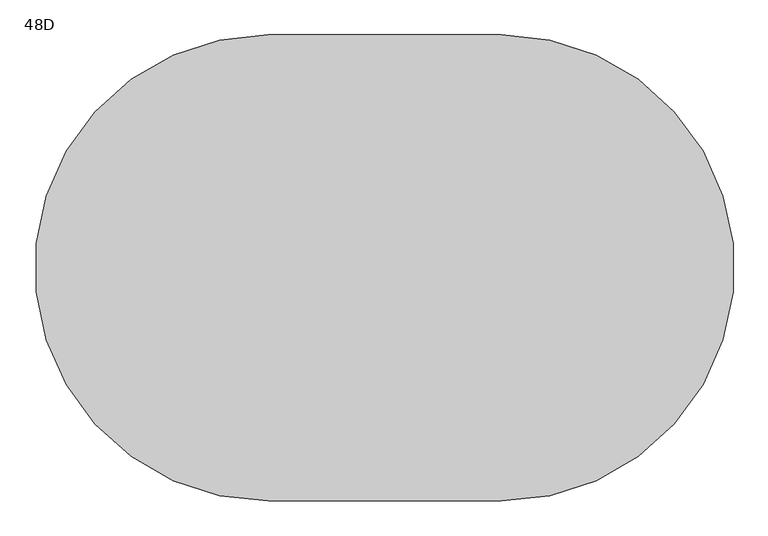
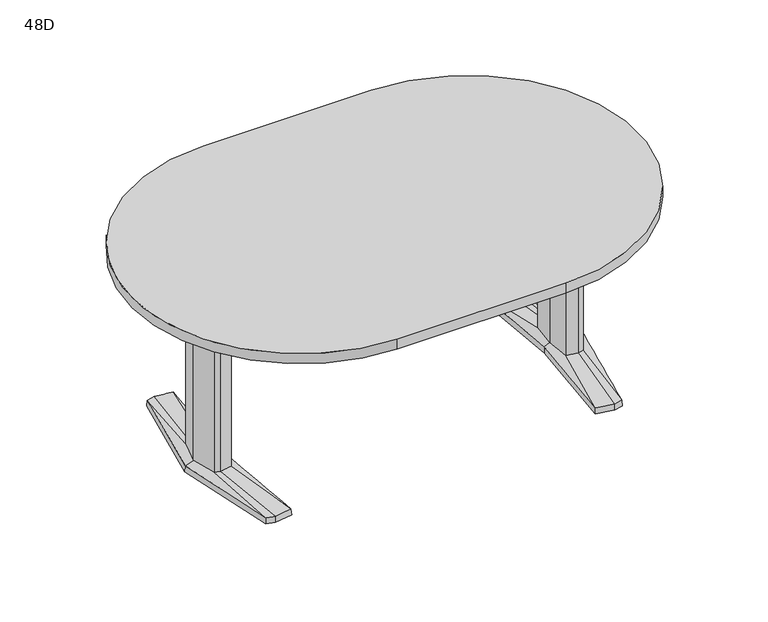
"""IFC4 building model written with IfcOpenShell, lengths in millimetres: furniture geometry, Coalesse_AM_Table_Conference_ETable2_Racetrack_72in_AluminiumBase : 48D."""

from ifc_helpers import new_model, si_unit, point, frame, frame_2d, origin, place, context, project, spatial, polyline, circle_curve, trimmed, segment, composite_curve, outline, extrude, source, transform, mapped, element, save
from ifc_brep_helpers import plane_surface, spline_surface, advanced_brep


def furniture_48d_6699b437(model_context):
    return source(origin(), model_context, "Body", "SolidModel", [
        advanced_brep(
        [(614.8503471, -379.3768856, 25.4), (644.5756636, -371.5332654, 25.4), (668.2327243, -89.293702, 36.5125), (648.9795254, -94.605478, 36.5125), (606.0521001, -87.0529327, 36.5125), (551.7612538, -368.5071562, 25.4), (597.9364207, 0.0, 36.5125), (579.8389754, 0.3970149, 25.4), (606.0521001, 87.0529327, 36.5125), (551.7615002, 368.5172593, 25.4), (648.9795254, 94.605478, 36.5125), (614.8502233, 379.3769183, 25.4), (668.2327243, 89.293702, 36.5125), (644.7535458, 371.4863276, 25.4), (692.1595251, 0.0, 36.5125), (721.4851663, 0.0003516, 25.4), (578.2468742, 0.3968871, 3.175), (550.06875, 369.8367279, 3.175), (614.9213004, 381.0, 3.175), (646.1093245, 372.7704151, 3.175), (723.10625, 0.0, 3.175), (645.9309817, -372.8174744, 3.175), (614.9213004, -381.0, 3.175), (550.06875, -369.8264415, 3.175), (649.5979264, 107.6121478, 3.175), (594.3065451, 97.8843184, 3.175), (585.1810887, 0.0, 3.175), (594.3065451, -97.8843184, 3.175), (649.5979264, -107.6121478, 3.175), (678.6183473, -99.6056872, 3.175), (705.3083085, 0.0, 3.175), (678.6183473, 99.6056872, 3.175), (613.4286812, 346.9152841, 3.175), (557.7811371, 337.3364985, 3.175), (560.1889918, 324.8641942, 3.175), (612.8600644, 333.9306305, 3.175), (648.6725609, 324.4807859, 3.175), (647.5544526, 337.9105158, 3.175), (613.4286812, -346.9152841, 3.175), (647.5544526, -337.9105158, 3.175), (648.6725609, -324.4807859, 3.175), (612.8600644, -333.9306305, 3.175), (560.1889918, -324.8641942, 3.175), (557.7811371, -337.3364985, 3.175), (649.5979264, 107.6121478, 0.0), (678.6183473, 99.6056872, 0.0), (705.3083085, 0.0, 0.0), (678.6183473, -99.6056872, 0.0), (649.5979264, -107.6121478, 0.0), (594.3065451, -97.8843184, 0.0), (585.1810887, 0.0, 0.0), (594.3065451, 97.8843184, 0.0), (613.4286812, 346.9152841, 0.0), (647.5544526, 337.9105158, 0.0), (648.6725609, 324.4807859, 0.0), (612.8600644, 333.9306305, 0.0), (560.1889918, 324.8641942, 0.0), (557.7811371, 337.3364985, 0.0), (613.4286812, -346.9152841, 0.0), (557.7811371, -337.3364985, 0.0), (560.1889918, -324.8641942, 0.0), (612.8600644, -333.9306305, 0.0), (648.6725609, -324.4807859, 0.0), (647.5544526, -337.9105158, 0.0), (668.2327243, 89.293702, 698.5), (648.9795254, 94.605478, 698.5), (606.0521001, 87.0529327, 698.5), (597.9364207, 0.0, 698.5), (606.0521001, -87.0529327, 698.5), (648.9795254, -94.605478, 698.5), (668.2327243, -89.293702, 698.5), (692.1595251, 0.0, 698.5)],
        [
            (0, 1),
            (1, 2),
            (2, 3),
            (3, 0),
            (3, 4),
            (4, 5),
            (5, 0),
            (4, 6),
            (6, 7),
            (7, 5),
            (6, 8),
            (8, 9),
            (9, 7),
            (8, 10),
            (10, 11),
            (11, 9),
            (10, 12),
            (12, 13),
            (13, 11),
            (12, 14),
            (14, 15),
            (15, 13),
            (1, 15),
            (14, 2),
            (16, 17),
            (17, 18),
            (18, 19),
            (19, 20),
            (20, 21),
            (21, 22),
            (22, 23),
            (23, 16),
            (24, 25),
            (25, 26),
            (26, 27),
            (27, 28),
            (28, 29),
            (29, 30),
            (30, 31),
            (31, 24),
            (32, 33),
            (33, 34),
            (34, 35),
            (35, 36),
            (36, 37),
            (37, 32),
            (38, 39),
            (39, 40),
            (40, 41),
            (41, 42),
            (42, 43),
            (43, 38),
            (16, 7),
            (9, 17),
            (11, 18),
            (13, 19),
            (15, 20),
            (1, 21),
            (0, 22),
            (5, 23),
            (44, 45),
            (45, 46),
            (46, 47),
            (47, 48),
            (48, 49),
            (49, 50),
            (50, 51),
            (51, 44),
            (52, 53),
            (53, 54),
            (54, 55),
            (55, 56),
            (56, 57),
            (57, 52),
            (58, 59),
            (59, 60),
            (60, 61),
            (61, 62),
            (62, 63),
            (63, 58),
            (44, 24),
            (31, 45),
            (30, 46),
            (29, 47),
            (28, 48),
            (27, 49),
            (26, 50),
            (25, 51),
            (52, 32),
            (37, 53),
            (36, 54),
            (35, 55),
            (34, 56),
            (33, 57),
            (58, 38),
            (43, 59),
            (42, 60),
            (41, 61),
            (40, 62),
            (39, 63),
            (64, 65),
            (65, 66),
            (66, 67),
            (67, 68),
            (68, 69),
            (69, 70),
            (70, 71),
            (71, 64),
            (71, 14),
            (12, 64),
            (70, 2),
            (69, 3),
            (68, 4),
            (67, 6),
            (66, 8),
            (65, 10),
        ],
        [
            spline_surface(1, 1, [[(644.5756636, -371.5332654, 25.4), (614.8503471, -379.3768856, 25.4)], [(668.2327243, -89.293702, 36.5125), (648.9795254, -94.605478, 36.5125)]], [2, 2], [2, 2], [0.0, 1.0], [0.0, 1.0]),
            spline_surface(1, 1, [[(614.8503471, -379.3768856, 25.4), (551.7612538, -368.5071562, 25.4)], [(648.9795254, -94.605478, 36.5125), (606.0521001, -87.0529327, 36.5125)]], [2, 2], [2, 2], [0.0, 1.0], [0.0, 1.0]),
            spline_surface(1, 1, [[(551.7612538, -368.5071562, 25.4), (579.8389754, 0.3970149, 25.4)], [(606.0521001, -87.0529327, 36.5125), (597.9364207, 0.0, 36.5125)]], [2, 2], [2, 2], [0.0, 1.0], [0.0, 1.0]),
            spline_surface(1, 1, [[(579.8389754, 0.3970149, 25.4), (551.7615002, 368.5172593, 25.4)], [(597.9364207, 0.0, 36.5125), (606.0521001, 87.0529327, 36.5125)]], [2, 2], [2, 2], [0.0, 1.0], [0.0, 1.0]),
            spline_surface(1, 1, [[(551.7615002, 368.5172593, 25.4), (614.8502233, 379.3769183, 25.4)], [(606.0521001, 87.0529327, 36.5125), (648.9795254, 94.605478, 36.5125)]], [2, 2], [2, 2], [0.0, 1.0], [0.0, 1.0]),
            spline_surface(1, 1, [[(614.8502233, 379.3769183, 25.4), (644.7535458, 371.4863276, 25.4)], [(648.9795254, 94.605478, 36.5125), (668.2327243, 89.293702, 36.5125)]], [2, 2], [2, 2], [0.0, 1.0], [0.0, 1.0]),
            spline_surface(1, 1, [[(644.7535458, 371.4863276, 25.4), (721.4851663, 0.0003516, 25.4)], [(668.2327243, 89.293702, 36.5125), (692.1595251, 0.0, 36.5125)]], [2, 2], [2, 2], [0.0, 1.0], [0.0, 1.0]),
            spline_surface(1, 1, [[(721.4851663, 0.0003516, 25.4), (644.5756636, -371.5332654, 25.4)], [(692.1595251, 0.0, 36.5125), (668.2327243, -89.293702, 36.5125)]], [2, 2], [2, 2], [0.0, 1.0], [0.0, 1.0]),
            plane_surface(frame((615.4216914, 0.0450143, 3.175), z_axis=(0.0, 0.0, -1.0), x_axis=(-0.9669048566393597, -0.2551372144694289, 0.0))),
            plane_surface(frame((564.1578121, 185.1168075, 3.175), z_axis=(-0.9945699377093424, -0.07585840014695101, 0.0712470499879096), x_axis=(-0.07605167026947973, 0.9971038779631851, 0.0))),
            plane_surface(frame((582.4950252, 375.418364, 3.175), z_axis=(-0.1692071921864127, 0.9830019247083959, 0.07124704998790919), x_axis=(0.985506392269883, 0.16963829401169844, 0.0))),
            plane_surface(frame((630.5153124, 376.8852076, 3.175), z_axis=(0.2544888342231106, 0.9644476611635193, 0.07124704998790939), x_axis=(0.9669048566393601, -0.25513721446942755, 0.0))),
            plane_surface(frame((684.6077872, 186.3852076, 3.175), z_axis=(0.9768383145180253, 0.2017690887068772, 0.07124704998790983), x_axis=(0.20228315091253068, -0.9793270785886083, 0.0))),
            plane_surface(frame((684.5186158, -186.4087372, 3.175), z_axis=(0.9767507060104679, -0.20219276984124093, 0.07124704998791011), x_axis=(-0.2027079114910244, -0.9792392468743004, 0.0))),
            plane_surface(frame((630.426141, -376.9087372, 3.175), z_axis=(0.2544888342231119, -0.9644476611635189, 0.0712470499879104), x_axis=(-0.9669048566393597, -0.2551372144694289, 0.0))),
            plane_surface(frame((582.4950252, -375.4132207, 3.175), z_axis=(-0.16935861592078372, -0.982975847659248, 0.07124704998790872), x_axis=(-0.9854802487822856, 0.16979010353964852, 0.0))),
            plane_surface(frame((564.1578121, -184.7147772, 3.175), z_axis=(-0.9945820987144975, 0.07569878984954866, 0.07124704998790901), x_axis=(0.07589165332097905, 0.9971160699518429, 0.0))),
            plane_surface(frame((652.3571479, 106.8509046, 0.0), z_axis=(0.0, 0.0, -1.0000000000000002), x_axis=(-0.9639855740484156, 0.26595453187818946, 0.0))),
            plane_surface(frame((649.5979264, 107.6121478, 3.175), z_axis=(0.26595453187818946, 0.9639855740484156, 0.0), x_axis=(0.0, 0.0, -1.0))),
            plane_surface(frame((678.6183473, 99.6056872, 3.175), z_axis=(0.9659241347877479, 0.2588253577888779, 0.0), x_axis=(0.0, 0.0, -1.0))),
            plane_surface(frame((705.3083085, 0.0, 3.175), z_axis=(0.9659241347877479, -0.2588253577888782, 0.0), x_axis=(0.0, 0.0, -1.0))),
            plane_surface(frame((678.6183473, -99.6056872, 3.175), z_axis=(0.26595453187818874, -0.9639855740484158, 0.0), x_axis=(0.0, 0.0, -1.0))),
            plane_surface(frame((649.5979264, -107.6121478, 3.175), z_axis=(-0.17327617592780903, -0.9848732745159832, 0.0), x_axis=(0.0, 0.0, -1.0))),
            plane_surface(frame((594.3065451, -97.8843184, 3.175), z_axis=(-0.9956824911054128, -0.0928244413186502, 0.0), x_axis=(0.0, 0.0, -1.0))),
            plane_surface(frame((585.1810887, 0.0, 3.175), z_axis=(-0.9956824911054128, 0.09282444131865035, 0.0), x_axis=(0.0, 0.0, -1.0))),
            plane_surface(frame((594.3065451, 97.8843184, 3.175), z_axis=(-0.17327617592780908, 0.984873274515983, 0.0), x_axis=(0.0, 0.0, -1.0))),
            plane_surface(frame((613.4286812, 346.9152841, 3.175), z_axis=(0.25513721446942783, 0.9669048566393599, 0.0), x_axis=(0.0, 0.0, -1.0))),
            plane_surface(frame((647.5544526, 337.9105158, 3.175), z_axis=(0.9965521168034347, 0.0829691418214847, 0.0), x_axis=(0.0, 0.0, -1.0))),
            plane_surface(frame((648.6725609, 324.4807859, 3.175), z_axis=(-0.25513721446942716, -0.9669048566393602, 0.0), x_axis=(0.0, 0.0, -1.0))),
            plane_surface(frame((612.8600644, 333.9306305, 3.175), z_axis=(0.16963829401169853, -0.985506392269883, 0.0), x_axis=(0.0, 0.0, -1.0))),
            plane_surface(frame((560.1889918, 324.8641942, 3.175), z_axis=(-0.9818699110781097, -0.18955600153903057, 0.0), x_axis=(0.0, 0.0, -1.0))),
            plane_surface(frame((557.7811371, 337.3364985, 3.175), z_axis=(-0.16963829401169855, 0.9855063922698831, 0.0), x_axis=(0.0, 0.0, -1.0))),
            plane_surface(frame((613.4286812, -346.9152841, 3.175), z_axis=(-0.1696382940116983, -0.9855063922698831, 0.0), x_axis=(0.0, 0.0, -1.0))),
            plane_surface(frame((557.7811371, -337.3364985, 3.175), z_axis=(-0.9818699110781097, 0.18955600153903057, 0.0), x_axis=(0.0, 0.0, -1.0))),
            plane_surface(frame((560.1889918, -324.8641942, 3.175), z_axis=(0.16963829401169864, 0.985506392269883, 0.0), x_axis=(0.0, 0.0, -1.0))),
            plane_surface(frame((612.8600644, -333.9306305, 3.175), z_axis=(-0.2551372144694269, 0.9669048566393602, 0.0), x_axis=(0.0, 0.0, -1.0))),
            plane_surface(frame((648.6725609, -324.4807859, 3.175), z_axis=(0.9965521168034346, -0.0829691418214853, 0.0), x_axis=(0.0, 0.0, -1.0))),
            plane_surface(frame((647.5544526, -337.9105158, 3.175), z_axis=(0.2551372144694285, -0.9669048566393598, 0.0), x_axis=(0.0, 0.0, -1.0))),
            plane_surface(frame((692.1595251, 0.0, 698.5), z_axis=(0.0, 0.0, 1.0), x_axis=(0.25882535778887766, -0.965924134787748, 0.0))),
            plane_surface(frame((668.2327243, 89.293702, 698.5), z_axis=(0.965924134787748, 0.25882535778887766, 0.0), x_axis=(0.0, 0.0, -1.0))),
            plane_surface(frame((692.1595251, 0.0, 698.5), z_axis=(0.965924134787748, -0.2588253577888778, 0.0), x_axis=(0.0, 0.0, -1.0))),
            plane_surface(frame((668.2327243, -89.293702, 698.5), z_axis=(0.2659545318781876, -0.963985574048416, 0.0), x_axis=(0.0, 0.0, -1.0))),
            plane_surface(frame((648.9795254, -94.605478, 698.5), z_axis=(-0.1732761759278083, -0.9848732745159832, 0.0), x_axis=(0.0, 0.0, -1.0))),
            plane_surface(frame((606.0521001, -87.0529327, 698.5), z_axis=(-0.9956824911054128, -0.0928244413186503, 0.0), x_axis=(0.0, 0.0, -1.0))),
            plane_surface(frame((597.9364207, 0.0, 698.5), z_axis=(-0.9956824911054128, 0.09282444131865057, 0.0), x_axis=(0.0, 0.0, -1.0))),
            plane_surface(frame((606.0521001, 87.0529327, 698.5), z_axis=(-0.17327617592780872, 0.9848732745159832, 0.0), x_axis=(0.0, 0.0, -1.0))),
            plane_surface(frame((648.9795254, 94.605478, 698.5), z_axis=(0.26595453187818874, 0.9639855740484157, 0.0), x_axis=(0.0, 0.0, -1.0))),
        ],
        [
            (0, [[1, 2, 3, 4]]),
            (1, [[5, 6, 7, -4]]),
            (2, [[8, 9, 10, -6]]),
            (3, [[11, 12, 13, -9]]),
            (4, [[14, 15, 16, -12]]),
            (5, [[17, 18, 19, -15]]),
            (6, [[20, 21, 22, -18]]),
            (7, [[23, -21, 24, -2]]),
            (8, [[25, 26, 27, 28, 29, 30, 31, 32], [33, 34, 35, 36, 37, 38, 39, 40], [41, 42, 43, 44, 45, 46], [47, 48, 49, 50, 51, 52]]),
            (9, [[53, -13, 54, -25]]),
            (10, [[-54, -16, 55, -26]]),
            (11, [[-55, -19, 56, -27]]),
            (12, [[-56, -22, 57, -28]]),
            (13, [[-57, -23, 58, -29]]),
            (14, [[-58, -1, 59, -30]]),
            (15, [[-59, -7, 60, -31]]),
            (16, [[-60, -10, -53, -32]]),
            (17, [[61, 62, 63, 64, 65, 66, 67, 68]]),
            (17, [[69, 70, 71, 72, 73, 74]]),
            (17, [[75, 76, 77, 78, 79, 80]]),
            (18, [[81, -40, 82, -61]]),
            (19, [[-82, -39, 83, -62]]),
            (20, [[-83, -38, 84, -63]]),
            (21, [[-84, -37, 85, -64]]),
            (22, [[-85, -36, 86, -65]]),
            (23, [[-86, -35, 87, -66]]),
            (24, [[-87, -34, 88, -67]]),
            (25, [[-88, -33, -81, -68]]),
            (26, [[89, -46, 90, -69]]),
            (27, [[-90, -45, 91, -70]]),
            (28, [[-91, -44, 92, -71]]),
            (29, [[-92, -43, 93, -72]]),
            (30, [[-93, -42, 94, -73]]),
            (31, [[-94, -41, -89, -74]]),
            (32, [[95, -52, 96, -75]]),
            (33, [[-96, -51, 97, -76]]),
            (34, [[-97, -50, 98, -77]]),
            (35, [[-98, -49, 99, -78]]),
            (36, [[-99, -48, 100, -79]]),
            (37, [[-100, -47, -95, -80]]),
            (38, [[101, 102, 103, 104, 105, 106, 107, 108]]),
            (39, [[109, -20, 110, -108]]),
            (40, [[111, -24, -109, -107]]),
            (41, [[112, -3, -111, -106]]),
            (42, [[113, -5, -112, -105]]),
            (43, [[114, -8, -113, -104]]),
            (44, [[115, -11, -114, -103]]),
            (45, [[116, -14, -115, -102]]),
            (46, [[-110, -17, -116, -101]]),
        ],
    ),
        advanced_brep(
        [(-614.8503471, -379.3768856, 25.4), (-648.9795254, -94.605478, 36.5125), (-668.2327243, -89.293702, 36.5125), (-644.5756636, -371.5332654, 25.4), (-551.7612538, -368.5071562, 25.4), (-606.0521001, -87.0529327, 36.5125), (-579.8389754, 0.3970149, 25.4), (-597.9364207, 0.0, 36.5125), (-551.7615002, 368.5172593, 25.4), (-606.0521001, 87.0529327, 36.5125), (-614.8502233, 379.3769183, 25.4), (-648.9795254, 94.605478, 36.5125), (-644.7535458, 371.4863276, 25.4), (-668.2327243, 89.293702, 36.5125), (-721.4851663, 0.0003516, 25.4), (-692.1595251, 0.0, 36.5125), (-578.2468742, 0.3968871, 3.175), (-550.06875, -369.8264415, 3.175), (-614.9213004, -381.0, 3.175), (-645.9309817, -372.8174744, 3.175), (-723.10625, 0.0, 3.175), (-646.1093245, 372.7704151, 3.175), (-614.9213004, 381.0, 3.175), (-550.06875, 369.8367279, 3.175), (-649.5979264, 107.6121478, 3.175), (-678.6183473, 99.6056872, 3.175), (-705.3083085, 0.0, 3.175), (-678.6183473, -99.6056872, 3.175), (-649.5979264, -107.6121478, 3.175), (-594.3065451, -97.8843184, 3.175), (-585.1810887, 0.0, 3.175), (-594.3065451, 97.8843184, 3.175), (-613.4286812, 346.9152841, 3.175), (-647.5544526, 337.9105158, 3.175), (-648.6725609, 324.4807859, 3.175), (-612.8600644, 333.9306305, 3.175), (-560.1889918, 324.8641942, 3.175), (-557.7811371, 337.3364985, 3.175), (-613.4286812, -346.9152841, 3.175), (-557.7811371, -337.3364985, 3.175), (-560.1889918, -324.8641942, 3.175), (-612.8600644, -333.9306305, 3.175), (-648.6725609, -324.4807859, 3.175), (-647.5544526, -337.9105158, 3.175), (-649.5979264, 107.6121478, 0.0), (-594.3065451, 97.8843184, 0.0), (-585.1810887, 0.0, 0.0), (-594.3065451, -97.8843184, 0.0), (-649.5979264, -107.6121478, 0.0), (-678.6183473, -99.6056872, 0.0), (-705.3083085, 0.0, 0.0), (-678.6183473, 99.6056872, 0.0), (-613.4286812, 346.9152841, 0.0), (-557.7811371, 337.3364985, 0.0), (-560.1889918, 324.8641942, 0.0), (-612.8600644, 333.9306305, 0.0), (-648.6725609, 324.4807859, 0.0), (-647.5544526, 337.9105158, 0.0), (-613.4286812, -346.9152841, 0.0), (-647.5544526, -337.9105158, 0.0), (-648.6725609, -324.4807859, 0.0), (-612.8600644, -333.9306305, 0.0), (-560.1889918, -324.8641942, 0.0), (-557.7811371, -337.3364985, 0.0), (-668.2327243, 89.293702, 698.5), (-692.1595251, 0.0, 698.5), (-668.2327243, -89.293702, 698.5), (-648.9795254, -94.605478, 698.5), (-606.0521001, -87.0529327, 698.5), (-597.9364207, 0.0, 698.5), (-606.0521001, 87.0529327, 698.5), (-648.9795254, 94.605478, 698.5)],
        [
            (0, 1),
            (1, 2),
            (2, 3),
            (3, 0),
            (0, 4),
            (4, 5),
            (5, 1),
            (4, 6),
            (6, 7),
            (7, 5),
            (6, 8),
            (8, 9),
            (9, 7),
            (8, 10),
            (10, 11),
            (11, 9),
            (10, 12),
            (12, 13),
            (13, 11),
            (12, 14),
            (14, 15),
            (15, 13),
            (2, 15),
            (14, 3),
            (16, 17),
            (17, 18),
            (18, 19),
            (19, 20),
            (20, 21),
            (21, 22),
            (22, 23),
            (23, 16),
            (24, 25),
            (25, 26),
            (26, 27),
            (27, 28),
            (28, 29),
            (29, 30),
            (30, 31),
            (31, 24),
            (32, 33),
            (33, 34),
            (34, 35),
            (35, 36),
            (36, 37),
            (37, 32),
            (38, 39),
            (39, 40),
            (40, 41),
            (41, 42),
            (42, 43),
            (43, 38),
            (23, 8),
            (6, 16),
            (22, 10),
            (21, 12),
            (20, 14),
            (19, 3),
            (18, 0),
            (17, 4),
            (44, 45),
            (45, 46),
            (46, 47),
            (47, 48),
            (48, 49),
            (49, 50),
            (50, 51),
            (51, 44),
            (52, 53),
            (53, 54),
            (54, 55),
            (55, 56),
            (56, 57),
            (57, 52),
            (58, 59),
            (59, 60),
            (60, 61),
            (61, 62),
            (62, 63),
            (63, 58),
            (51, 25),
            (24, 44),
            (50, 26),
            (49, 27),
            (48, 28),
            (47, 29),
            (46, 30),
            (45, 31),
            (57, 33),
            (32, 52),
            (56, 34),
            (55, 35),
            (54, 36),
            (53, 37),
            (63, 39),
            (38, 58),
            (62, 40),
            (61, 41),
            (60, 42),
            (59, 43),
            (64, 65),
            (65, 66),
            (66, 67),
            (67, 68),
            (68, 69),
            (69, 70),
            (70, 71),
            (71, 64),
            (64, 13),
            (15, 65),
            (2, 66),
            (1, 67),
            (5, 68),
            (7, 69),
            (9, 70),
            (11, 71),
        ],
        [
            spline_surface(1, 1, [[(-644.5756636, -371.5332654, 25.4), (-668.2327243, -89.293702, 36.5125)], [(-614.8503471, -379.3768856, 25.4), (-648.9795254, -94.605478, 36.5125)]], [2, 2], [2, 2], [0.0, 1.0], [0.0, 1.0]),
            spline_surface(1, 1, [[(-614.8503471, -379.3768856, 25.4), (-648.9795254, -94.605478, 36.5125)], [(-551.7612538, -368.5071562, 25.4), (-606.0521001, -87.0529327, 36.5125)]], [2, 2], [2, 2], [0.0, 1.0], [0.0, 1.0]),
            spline_surface(1, 1, [[(-551.7612538, -368.5071562, 25.4), (-606.0521001, -87.0529327, 36.5125)], [(-579.8389754, 0.3970149, 25.4), (-597.9364207, 0.0, 36.5125)]], [2, 2], [2, 2], [0.0, 1.0], [0.0, 1.0]),
            spline_surface(1, 1, [[(-579.8389754, 0.3970149, 25.4), (-597.9364207, 0.0, 36.5125)], [(-551.7615002, 368.5172593, 25.4), (-606.0521001, 87.0529327, 36.5125)]], [2, 2], [2, 2], [0.0, 1.0], [0.0, 1.0]),
            spline_surface(1, 1, [[(-551.7615002, 368.5172593, 25.4), (-606.0521001, 87.0529327, 36.5125)], [(-614.8502233, 379.3769183, 25.4), (-648.9795254, 94.605478, 36.5125)]], [2, 2], [2, 2], [0.0, 1.0], [0.0, 1.0]),
            spline_surface(1, 1, [[(-614.8502233, 379.3769183, 25.4), (-648.9795254, 94.605478, 36.5125)], [(-644.7535458, 371.4863276, 25.4), (-668.2327243, 89.293702, 36.5125)]], [2, 2], [2, 2], [0.0, 1.0], [0.0, 1.0]),
            spline_surface(1, 1, [[(-644.7535458, 371.4863276, 25.4), (-668.2327243, 89.293702, 36.5125)], [(-721.4851663, 0.0003516, 25.4), (-692.1595251, 0.0, 36.5125)]], [2, 2], [2, 2], [0.0, 1.0], [0.0, 1.0]),
            spline_surface(1, 1, [[(-721.4851663, 0.0003516, 25.4), (-692.1595251, 0.0, 36.5125)], [(-644.5756636, -371.5332654, 25.4), (-668.2327243, -89.293702, 36.5125)]], [2, 2], [2, 2], [0.0, 1.0], [0.0, 1.0]),
            plane_surface(frame((-615.4216914, 0.0450143, 3.175), z_axis=(0.0, 0.0, -1.0), x_axis=(0.9669048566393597, -0.2551372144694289, 0.0))),
            plane_surface(frame((-564.1578121, 185.1168075, 3.175), z_axis=(0.9945699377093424, -0.07585840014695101, 0.0712470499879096), x_axis=(0.07605167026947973, 0.9971038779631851, 0.0))),
            plane_surface(frame((-582.4950252, 375.418364, 3.175), z_axis=(0.1692071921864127, 0.9830019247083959, 0.07124704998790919), x_axis=(-0.985506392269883, 0.16963829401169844, 0.0))),
            plane_surface(frame((-630.5153124, 376.8852076, 3.175), z_axis=(-0.2544888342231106, 0.9644476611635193, 0.07124704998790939), x_axis=(-0.9669048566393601, -0.25513721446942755, 0.0))),
            plane_surface(frame((-684.6077872, 186.3852076, 3.175), z_axis=(-0.9768383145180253, 0.2017690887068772, 0.07124704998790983), x_axis=(-0.20228315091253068, -0.9793270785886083, 0.0))),
            plane_surface(frame((-684.5186158, -186.4087372, 3.175), z_axis=(-0.9767507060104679, -0.20219276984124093, 0.07124704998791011), x_axis=(0.2027079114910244, -0.9792392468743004, 0.0))),
            plane_surface(frame((-630.426141, -376.9087372, 3.175), z_axis=(-0.2544888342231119, -0.9644476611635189, 0.0712470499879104), x_axis=(0.9669048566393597, -0.2551372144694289, 0.0))),
            plane_surface(frame((-582.4950252, -375.4132207, 3.175), z_axis=(0.16935861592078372, -0.982975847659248, 0.07124704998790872), x_axis=(0.9854802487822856, 0.16979010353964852, 0.0))),
            plane_surface(frame((-564.1578121, -184.7147772, 3.175), z_axis=(0.9945820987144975, 0.07569878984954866, 0.07124704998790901), x_axis=(-0.07589165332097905, 0.9971160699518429, 0.0))),
            plane_surface(frame((-652.3571479, 106.8509046, 0.0), z_axis=(0.0, 0.0, -1.0000000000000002), x_axis=(0.9639855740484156, 0.26595453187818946, 0.0))),
            plane_surface(frame((-649.5979264, 107.6121478, 3.175), z_axis=(-0.26595453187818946, 0.9639855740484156, 0.0), x_axis=(0.0, 0.0, -1.0))),
            plane_surface(frame((-678.6183473, 99.6056872, 3.175), z_axis=(-0.9659241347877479, 0.2588253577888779, 0.0), x_axis=(0.0, 0.0, -1.0))),
            plane_surface(frame((-705.3083085, 0.0, 3.175), z_axis=(-0.9659241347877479, -0.2588253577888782, 0.0), x_axis=(0.0, 0.0, -1.0))),
            plane_surface(frame((-678.6183473, -99.6056872, 3.175), z_axis=(-0.26595453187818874, -0.9639855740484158, 0.0), x_axis=(0.0, 0.0, -1.0))),
            plane_surface(frame((-649.5979264, -107.6121478, 3.175), z_axis=(0.17327617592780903, -0.9848732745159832, 0.0), x_axis=(0.0, 0.0, -1.0))),
            plane_surface(frame((-594.3065451, -97.8843184, 3.175), z_axis=(0.9956824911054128, -0.0928244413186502, 0.0), x_axis=(0.0, 0.0, -1.0))),
            plane_surface(frame((-585.1810887, 0.0, 3.175), z_axis=(0.9956824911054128, 0.09282444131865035, 0.0), x_axis=(0.0, 0.0, -1.0))),
            plane_surface(frame((-594.3065451, 97.8843184, 3.175), z_axis=(0.17327617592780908, 0.984873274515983, 0.0), x_axis=(0.0, 0.0, -1.0))),
            plane_surface(frame((-613.4286812, 346.9152841, 3.175), z_axis=(-0.25513721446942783, 0.9669048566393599, 0.0), x_axis=(0.0, 0.0, -1.0))),
            plane_surface(frame((-647.5544526, 337.9105158, 3.175), z_axis=(-0.9965521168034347, 0.0829691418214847, 0.0), x_axis=(0.0, 0.0, -1.0))),
            plane_surface(frame((-648.6725609, 324.4807859, 3.175), z_axis=(0.25513721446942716, -0.9669048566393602, 0.0), x_axis=(0.0, 0.0, -1.0))),
            plane_surface(frame((-612.8600644, 333.9306305, 3.175), z_axis=(-0.16963829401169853, -0.985506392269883, 0.0), x_axis=(0.0, 0.0, -1.0))),
            plane_surface(frame((-560.1889918, 324.8641942, 3.175), z_axis=(0.9818699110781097, -0.18955600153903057, 0.0), x_axis=(0.0, 0.0, -1.0))),
            plane_surface(frame((-557.7811371, 337.3364985, 3.175), z_axis=(0.16963829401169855, 0.9855063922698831, 0.0), x_axis=(0.0, 0.0, -1.0))),
            plane_surface(frame((-613.4286812, -346.9152841, 3.175), z_axis=(0.1696382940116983, -0.9855063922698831, 0.0), x_axis=(0.0, 0.0, -1.0))),
            plane_surface(frame((-557.7811371, -337.3364985, 3.175), z_axis=(0.9818699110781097, 0.18955600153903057, 0.0), x_axis=(0.0, 0.0, -1.0))),
            plane_surface(frame((-560.1889918, -324.8641942, 3.175), z_axis=(-0.16963829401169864, 0.985506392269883, 0.0), x_axis=(0.0, 0.0, -1.0))),
            plane_surface(frame((-612.8600644, -333.9306305, 3.175), z_axis=(0.2551372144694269, 0.9669048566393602, 0.0), x_axis=(0.0, 0.0, -1.0))),
            plane_surface(frame((-648.6725609, -324.4807859, 3.175), z_axis=(-0.9965521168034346, -0.0829691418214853, 0.0), x_axis=(0.0, 0.0, -1.0))),
            plane_surface(frame((-647.5544526, -337.9105158, 3.175), z_axis=(-0.2551372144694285, -0.9669048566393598, 0.0), x_axis=(0.0, 0.0, -1.0))),
            plane_surface(frame((-692.1595251, 0.0, 698.5), z_axis=(0.0, 0.0, 1.0), x_axis=(-0.25882535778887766, -0.965924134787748, 0.0))),
            plane_surface(frame((-668.2327243, 89.293702, 698.5), z_axis=(-0.965924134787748, 0.25882535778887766, 0.0), x_axis=(0.0, 0.0, -1.0))),
            plane_surface(frame((-692.1595251, 0.0, 698.5), z_axis=(-0.965924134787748, -0.2588253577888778, 0.0), x_axis=(0.0, 0.0, -1.0))),
            plane_surface(frame((-668.2327243, -89.293702, 698.5), z_axis=(-0.2659545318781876, -0.963985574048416, 0.0), x_axis=(0.0, 0.0, -1.0))),
            plane_surface(frame((-648.9795254, -94.605478, 698.5), z_axis=(0.1732761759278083, -0.9848732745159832, 0.0), x_axis=(0.0, 0.0, -1.0))),
            plane_surface(frame((-606.0521001, -87.0529327, 698.5), z_axis=(0.9956824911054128, -0.0928244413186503, 0.0), x_axis=(0.0, 0.0, -1.0))),
            plane_surface(frame((-597.9364207, 0.0, 698.5), z_axis=(0.9956824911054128, 0.09282444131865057, 0.0), x_axis=(0.0, 0.0, -1.0))),
            plane_surface(frame((-606.0521001, 87.0529327, 698.5), z_axis=(0.17327617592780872, 0.9848732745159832, 0.0), x_axis=(0.0, 0.0, -1.0))),
            plane_surface(frame((-648.9795254, 94.605478, 698.5), z_axis=(-0.26595453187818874, 0.9639855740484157, 0.0), x_axis=(0.0, 0.0, -1.0))),
        ],
        [
            (0, [[1, 2, 3, 4]]),
            (1, [[-1, 5, 6, 7]]),
            (2, [[-6, 8, 9, 10]]),
            (3, [[-9, 11, 12, 13]]),
            (4, [[-12, 14, 15, 16]]),
            (5, [[-15, 17, 18, 19]]),
            (6, [[-18, 20, 21, 22]]),
            (7, [[-3, 23, -21, 24]]),
            (8, [[25, 26, 27, 28, 29, 30, 31, 32], [33, 34, 35, 36, 37, 38, 39, 40], [41, 42, 43, 44, 45, 46], [47, 48, 49, 50, 51, 52]]),
            (9, [[-32, 53, -11, 54]]),
            (10, [[-31, 55, -14, -53]]),
            (11, [[-30, 56, -17, -55]]),
            (12, [[-29, 57, -20, -56]]),
            (13, [[-28, 58, -24, -57]]),
            (14, [[-27, 59, -4, -58]]),
            (15, [[-26, 60, -5, -59]]),
            (16, [[-25, -54, -8, -60]]),
            (17, [[61, 62, 63, 64, 65, 66, 67, 68]]),
            (17, [[69, 70, 71, 72, 73, 74]]),
            (17, [[75, 76, 77, 78, 79, 80]]),
            (18, [[-68, 81, -33, 82]]),
            (19, [[-67, 83, -34, -81]]),
            (20, [[-66, 84, -35, -83]]),
            (21, [[-65, 85, -36, -84]]),
            (22, [[-64, 86, -37, -85]]),
            (23, [[-63, 87, -38, -86]]),
            (24, [[-62, 88, -39, -87]]),
            (25, [[-61, -82, -40, -88]]),
            (26, [[-74, 89, -41, 90]]),
            (27, [[-73, 91, -42, -89]]),
            (28, [[-72, 92, -43, -91]]),
            (29, [[-71, 93, -44, -92]]),
            (30, [[-70, 94, -45, -93]]),
            (31, [[-69, -90, -46, -94]]),
            (32, [[-80, 95, -47, 96]]),
            (33, [[-79, 97, -48, -95]]),
            (34, [[-78, 98, -49, -97]]),
            (35, [[-77, 99, -50, -98]]),
            (36, [[-76, 100, -51, -99]]),
            (37, [[-75, -96, -52, -100]]),
            (38, [[101, 102, 103, 104, 105, 106, 107, 108]]),
            (39, [[-101, 109, -22, 110]]),
            (40, [[-102, -110, -23, 111]]),
            (41, [[-103, -111, -2, 112]]),
            (42, [[-104, -112, -7, 113]]),
            (43, [[-105, -113, -10, 114]]),
            (44, [[-106, -114, -13, 115]]),
            (45, [[-107, -115, -16, 116]]),
            (46, [[-108, -116, -19, -109]]),
        ],
    ),
        extrude(outline(polyline([(96.8375, 698.5), (103.1875, 698.5), (103.1875, 476.25), (-103.1875, 476.25), (-103.1875, 698.5), (-96.8375, 698.5), (-96.8375, 482.6), (96.8375, 482.6), (96.8375, 698.5)])), frame((-597.9364207, 0.0, 0.0), z_axis=(1.0, 0.0, 0.0), x_axis=(0.0, 1.0, 0.0)), (0.0, 0.0, 1.0), 1195.8728415),
        extrude(outline(composite_curve([segment(trimmed(circle_curve(frame_2d((-304.8, 0.0)), 609.6), [point((-304.8, -609.6))], [point((-304.8, 609.6))], False, "CARTESIAN"), True, "CONTINUOUS"), segment(polyline([(-304.8, 609.6), (304.8, 609.6)]), True, "CONTINUOUS"), segment(trimmed(circle_curve(frame_2d((304.8, 0.0)), 609.6), [point((304.8, 609.6))], [point((304.8, -609.6))], False, "CARTESIAN"), True, "CONTINUOUS"), segment(polyline([(304.8, -609.6), (-304.8, -609.6)]), True, "CONTINUOUS")], self_intersect=False)), frame((0.0, 0.0, 698.5), z_axis=(0.0, 0.0, 1.0), x_axis=(1.0, 0.0, 0.0)), (0.0, 0.0, 1.0), 38.1),
    ])


if __name__ == "__main__":
    model = new_model("IFC4")
    model_context = context("Model", 3, world=origin())
    ifc_project = project(units=[si_unit("LENGTHUNIT", "METRE", prefix="MILLI")], contexts=[model_context])
    site = spatial("IfcSite", under=ifc_project)
    building = spatial("IfcBuilding", under=site)
    placement = place(None, origin())
    furniture_48d_shape = furniture_48d_6699b437(model_context)
    element("IfcFurniture", 1, ObjectType="Coalesse_AM_Table_Conference_ETable2_Racetrack_72in_AluminiumBase : 48D", at=placement, inside=building, context=model_context, shape_type="MappedRepresentation", body=[
        mapped(furniture_48d_shape, transform((0.0, 0.0, 0.0), x_axis=(1.0, 0.0, 0.0), y_axis=(0.0, 1.0, 0.0), z_axis=(0.0, 0.0, 1.0))),
    ])
    save(model, "model.ifc")
